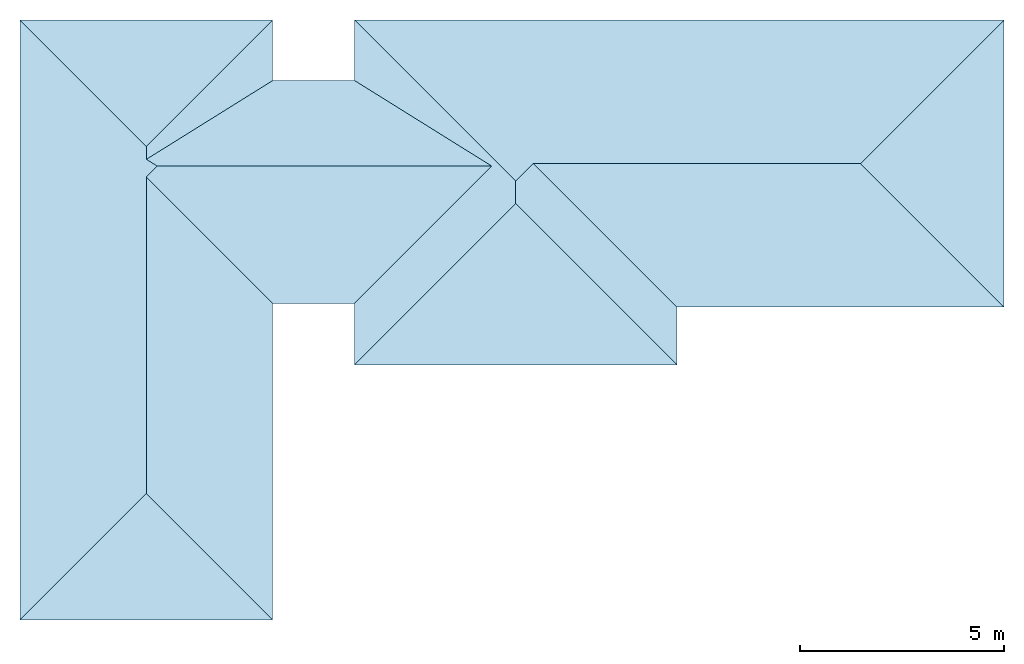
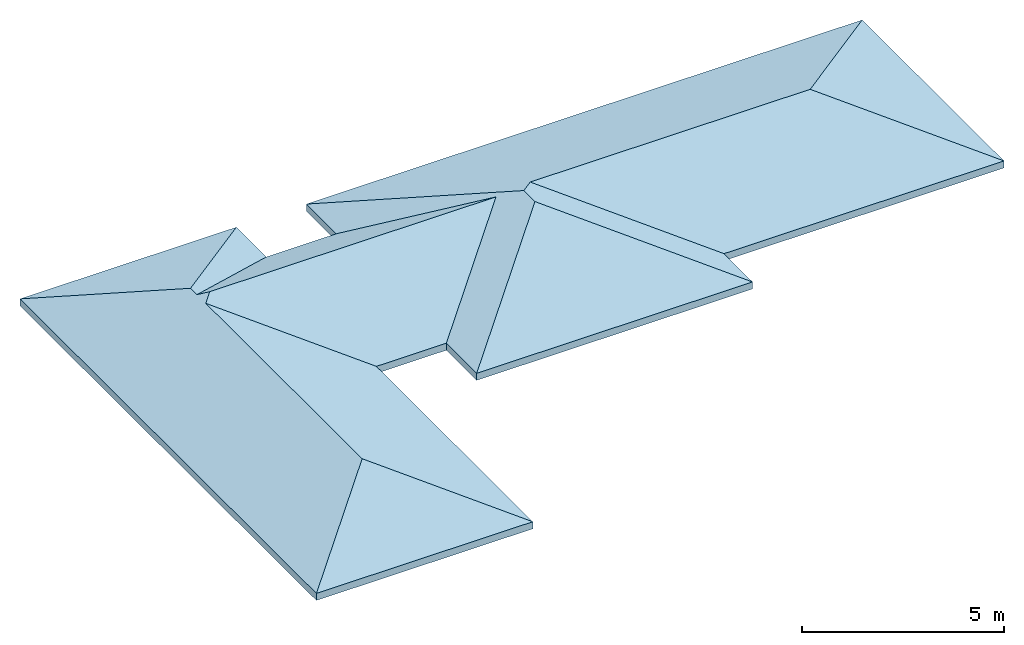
# One storey: 1 roof.
"""IFC2X3 building model written with IfcOpenShell, lengths in metres."""

from ifc_helpers import new_model, entity, si_unit, converted_unit, derived_unit, direction, frame, origin, place, context, subcontext, project, spatial, faceted_brep, material, element, save


model = new_model("IFC2X3")

# Units and contexts
model_context = context("Model", 3, precision=1e-05, world=origin(), true_north=direction((6.12303176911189e-17, 1.0)))
body_context = subcontext(model_context, "Body", "Model", "MODEL_VIEW")
ifc_project = project(units=[si_unit("LENGTHUNIT", "METRE"), si_unit("AREAUNIT", "SQUARE_METRE"), si_unit("VOLUMEUNIT", "CUBIC_METRE"), converted_unit("PLANEANGLEUNIT", "DEGREE", entity("IfcRatioMeasure", 0.0174532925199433), si_unit("PLANEANGLEUNIT", "RADIAN"), dimensions=[0, 0, 0, 0, 0, 0, 0]), si_unit("MASSUNIT", "GRAM", prefix="KILO"), derived_unit("MASSDENSITYUNIT", [(si_unit("MASSUNIT", "GRAM", prefix="KILO"), 1), (si_unit("LENGTHUNIT", "METRE"), -3)]), si_unit("TIMEUNIT", "SECOND"), si_unit("FREQUENCYUNIT", "HERTZ"), si_unit("THERMODYNAMICTEMPERATUREUNIT", "DEGREE_CELSIUS"), derived_unit("THERMALTRANSMITTANCEUNIT", [(si_unit("MASSUNIT", "GRAM", prefix="KILO"), 1), (si_unit("THERMODYNAMICTEMPERATUREUNIT", "KELVIN"), -1), (si_unit("TIMEUNIT", "SECOND"), -3)]), derived_unit("VOLUMETRICFLOWRATEUNIT", [(si_unit("LENGTHUNIT", "METRE"), 3), (si_unit("TIMEUNIT", "SECOND"), -1)]), si_unit("ELECTRICCURRENTUNIT", "AMPERE"), si_unit("ELECTRICVOLTAGEUNIT", "VOLT"), si_unit("POWERUNIT", "WATT"), si_unit("FORCEUNIT", "NEWTON", prefix="KILO"), si_unit("ILLUMINANCEUNIT", "LUX"), si_unit("LUMINOUSFLUXUNIT", "LUMEN"), si_unit("LUMINOUSINTENSITYUNIT", "CANDELA"), derived_unit("USERDEFINED", [(si_unit("MASSUNIT", "GRAM", prefix="KILO"), -1), (si_unit("LENGTHUNIT", "METRE"), -2), (si_unit("TIMEUNIT", "SECOND"), 3), (si_unit("LUMINOUSFLUXUNIT", "LUMEN"), 1)]), derived_unit("LINEARVELOCITYUNIT", [(si_unit("LENGTHUNIT", "METRE"), 1), (si_unit("TIMEUNIT", "SECOND"), -1)]), si_unit("PRESSUREUNIT", "PASCAL"), derived_unit("USERDEFINED", [(si_unit("LENGTHUNIT", "METRE"), -2), (si_unit("MASSUNIT", "GRAM", prefix="KILO"), 1), (si_unit("TIMEUNIT", "SECOND"), -2)])], contexts=[model_context])

# Site, building, storey
site_placement = place(None, origin())
site = spatial("IfcSite", under=ifc_project, at=site_placement, Name="Default", CompositionType="ELEMENT")
building_placement = place(site_placement, origin())
building = spatial("IfcBuilding", under=site, at=building_placement, CompositionType="ELEMENT")
storey_placement = place(building_placement, frame((0.0, 0.0, 2.67)))
storey = spatial("IfcBuildingStorey", under=building, at=storey_placement, Name="3 - Combles", CompositionType="ELEMENT", Elevation=2.67)

# Roof
ifc_material = material(Name="Toit par défaut")
roof_placement = place(storey_placement, frame((-10.2362224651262, -7.75194499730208, 0.0)))
element("IfcRoof", 1, at=roof_placement, inside=storey, material=ifc_material, Name="Toit de base:Toit - 200 mm", ObjectType="Toit de base:Toit - 200 mm:630", ShapeType="NOTDEFINED", context=body_context, shape_type="Brep", body=[
    faceted_brep([(6.1800000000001, 14.67, 0.0), (3.09000000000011, 11.58, 1.1124684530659), (0.0, 14.6700000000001, 0.0), (16.0600000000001, 7.65, 0.0), (12.5500000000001, 11.16, 1.26367775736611), (20.5500000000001, 11.16, 1.26367775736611), (24.0600000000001, 7.65, 0.0), (16.0600000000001, 6.24, 0.0), (12.1200000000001, 10.18, 1.4184872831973), (12.1200000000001, 10.73, 1.4184872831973), (8.18000000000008, 6.24, 0.0), (6.1800000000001, 7.74, 0.0), (3.0900000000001, 10.83, 1.1124684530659), (3.33718548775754, 11.0771854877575, 1.20146070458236), (11.5171854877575, 11.0771854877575, 1.20146070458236), (8.18000000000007, 7.74, 0.0), (0.0, 0.0, 0.0), (3.09000000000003, 3.09000000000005, 1.1124684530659), (6.18000000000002, 0.0, 0.0), (6.18000000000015, 13.1581764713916, 0.0), (3.0900000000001, 11.2313245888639, 1.1124684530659), (6.18000000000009, 13.19, 0.0), (24.0600000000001, 14.67, 0.0), (8.18000000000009, 13.1581764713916, 0.0), (8.1800000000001, 13.19, 0.0), (8.1800000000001, 14.67, 0.0), (6.1800000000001, 14.67, 0.212566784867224), (0.0, 14.6700000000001, 0.212566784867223), (3.0900000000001, 11.58, 1.32503523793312), (16.0600000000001, 7.65, 0.212566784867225), (24.0600000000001, 7.65, 0.212566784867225), (20.5500000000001, 11.16, 1.47624454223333), (12.5500000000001, 11.16, 1.47624454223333), (16.0600000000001, 6.24, 0.212566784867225), (12.1200000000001, 10.73, 1.63105406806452), (12.1200000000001, 10.18, 1.63105406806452), (8.18000000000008, 6.24, 0.212566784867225), (6.1800000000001, 7.74, 0.212566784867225), (8.18000000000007, 7.74, 0.212566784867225), (11.5367863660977, 11.0967863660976, 1.42108423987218), (3.35678636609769, 11.0967863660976, 1.42108423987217), (3.09000000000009, 10.83, 1.32503523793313), (0.0, 0.0, 0.212566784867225), (6.18000000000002, 0.0, 0.212566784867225), (3.09000000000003, 3.09000000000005, 1.32503523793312), (6.18000000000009, 13.19, 0.212566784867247), (3.0900000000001, 11.2631481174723, 1.32503523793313), (24.0600000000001, 14.67, 0.212566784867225), (8.1800000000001, 14.67, 0.21256678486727), (8.1800000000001, 13.19, 0.21256678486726)], [[[0, 1, 2]], [[3, 4, 5, 6]], [[7, 8, 9, 4, 3]], [[10, 8, 7]], [[11, 12, 13, 14, 15]], [[16, 17, 18]], [[19, 20, 1, 0, 21]], [[17, 16, 2, 1, 20, 13, 12]], [[6, 5, 22]], [[15, 14, 23, 24, 25, 9, 8, 10]], [[22, 5, 4, 9, 25]], [[26, 27, 28]], [[29, 30, 31, 32]], [[33, 29, 32, 34, 35]], [[36, 33, 35]], [[37, 38, 39, 40, 41]], [[42, 43, 44]], [[45, 26, 28, 46]], [[42, 44, 41, 40, 46, 28, 27]], [[30, 47, 31]], [[38, 36, 35, 34, 48, 49, 39]], [[47, 48, 34, 32, 31]], [[18, 43, 42, 16]], [[11, 37, 43, 18]], [[15, 38, 37, 11]], [[10, 36, 38, 15]], [[7, 33, 36, 10]], [[3, 29, 33, 7]], [[6, 30, 29, 3]], [[22, 47, 30, 6]], [[25, 48, 47, 22]], [[24, 49, 48, 25]], [[0, 26, 45, 21]], [[2, 27, 26, 0]], [[16, 42, 27, 2]], [[21, 24, 23, 19]], [[18, 17, 12, 11]], [[23, 14, 13, 20, 19]], [[43, 37, 41, 44]], [[49, 45, 46, 40, 39]], [[21, 45, 49, 24]]]),
])

save(model, "model.ifc")
